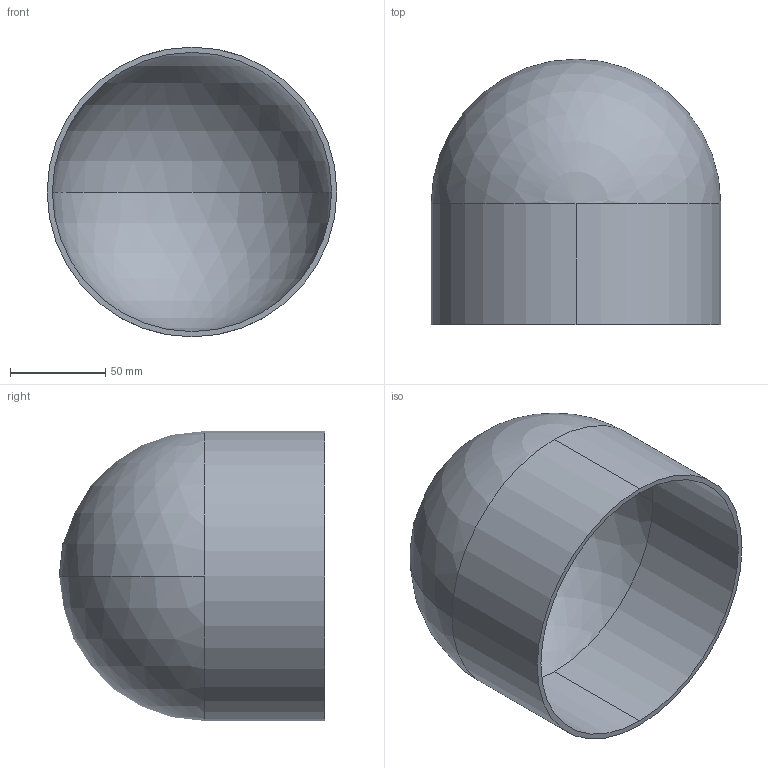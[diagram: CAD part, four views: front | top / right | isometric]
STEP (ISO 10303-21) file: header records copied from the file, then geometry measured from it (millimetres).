
FILE_DESCRIPTION (( 'STEP AP214' ), '1' );
FILE_NAME ('TE16W6L6.0-...STEP', '2016-06-01T14:15:45', ( 'eran' ), ( '' ), 'SwSTEP 2.0', 'SolidWorks 2016', '' );
FILE_SCHEMA (( 'AUTOMOTIVE_DESIGN' ));
Length unit declared in the file: millimetre
Products named in the file (1): TE16W6L6.0-..
Bounding box: 152.4 x 139.7 x 152.4 mm (x, y, z)
Volume: 180112.7 mm3; surface area: 131363.5 mm2
Topology: 1 solids, 1 shells, 9 faces, 24 edges, 14 vertices
Faces by surface type: cylinder 4, sphere 4, plane 1
Entity records: 300 total; most frequent: DIRECTION 56, CARTESIAN_POINT 44, ORIENTED_EDGE 40, AXIS2_PLACEMENT_3D 26, EDGE_CURVE 20, CIRCLE 16, VERTEX_POINT 14, EDGE_LOOP 10
